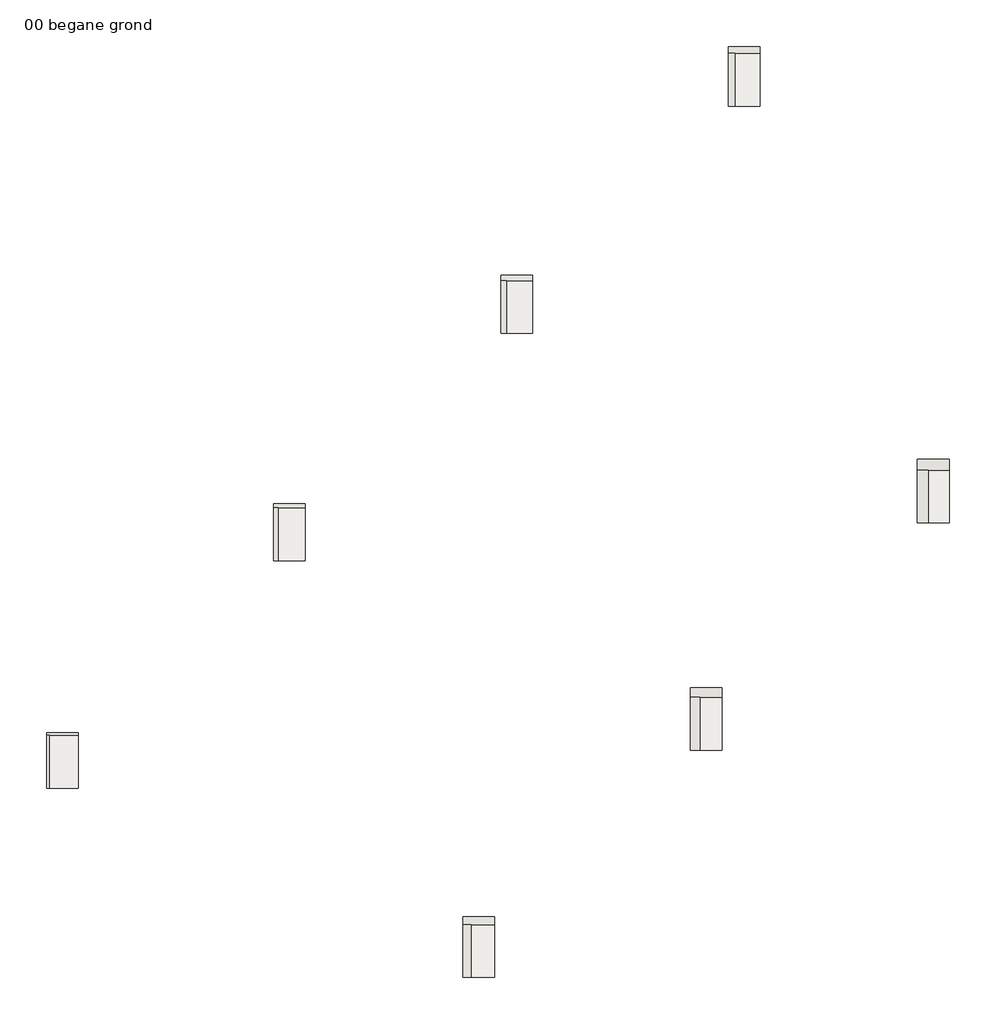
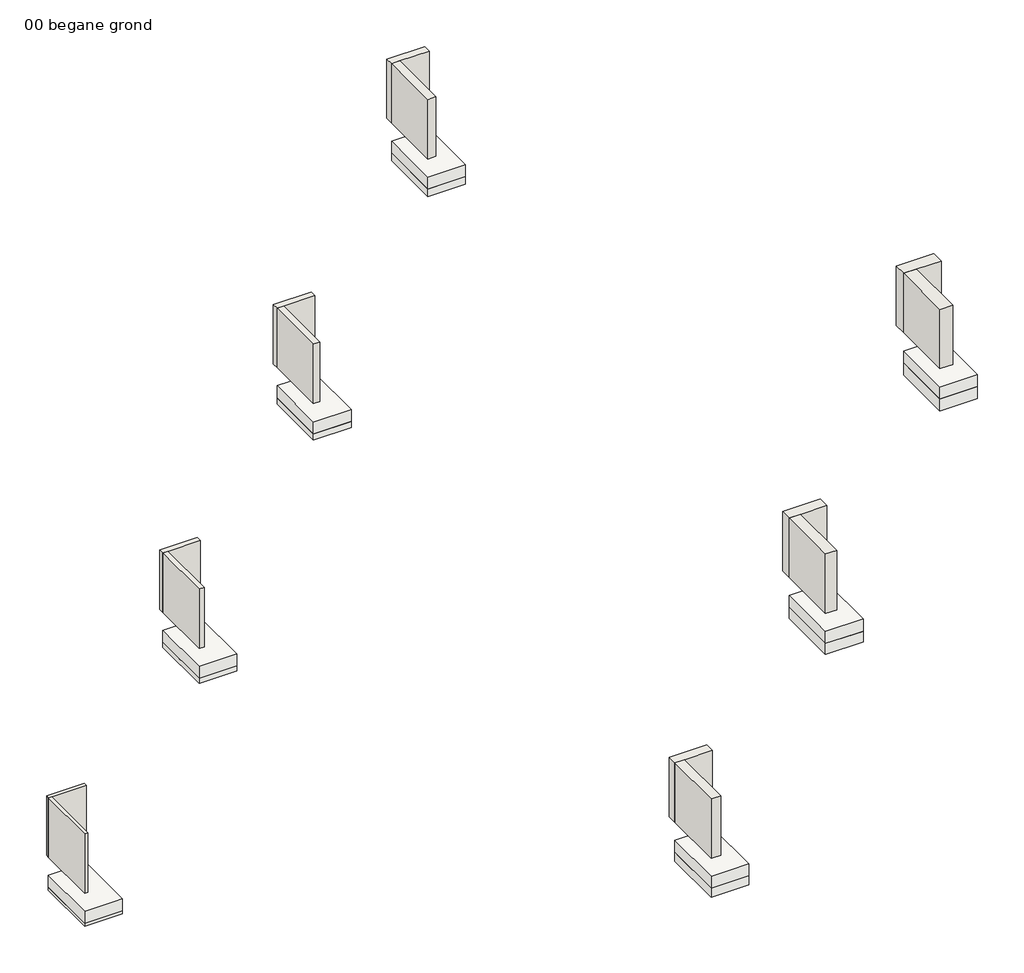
# One storey: 14 slabs, 14 walls.
"""IFC4 building model written with IfcOpenShell, lengths in millimetres."""

import ifcopenshell
import ifcopenshell.guid

model = None  # the IFC model being written
_history = None  # IfcOwnerHistory: only IFC2X3 demands one
_inside = {}  # id of a spatial element -> (the spatial element, [elements in it])
_under = {}  # id of a project, library or spatial element -> (it, [spatial elements below it])
_declared = {}  # id of a project -> (the project, [libraries it declares])
_typed = {}  # id of a type object -> (the type object, [elements of that type])
_made_of = {}  # id of a material, layer set ... -> (it, [elements and type objects made of it])


def new_model(schema):
    """Start an empty IFC model of exactly this schema.

    Asked for "IFC4X3", IfcOpenShell would pick the latest addendum, in which some entities
    have other attributes; the version numbers below select the first issue.
    IFC2X3 requires an IfcOwnerHistory on every rooted entity: one is made here for all.
    """
    global model, _history
    if schema == "IFC4X3":
        model = ifcopenshell.file(schema_version=(4, 3, 0, 0))
    else:
        model = ifcopenshell.file(schema=schema)
    _inside.clear()
    _under.clear()
    _declared.clear()
    _typed.clear()
    _made_of.clear()
    _history = None
    if model.schema == "IFC2X3":
        org = make("IfcOrganization", Name="unknown")
        user = make(
            "IfcPersonAndOrganization",
            ThePerson=make("IfcPerson", FamilyName="unknown"),
            TheOrganization=org,
        )
        app = make(
            "IfcApplication",
            ApplicationDeveloper=org,
            Version="unknown",
            ApplicationFullName="unknown",
            ApplicationIdentifier="unknown",
        )
        _history = make(
            "IfcOwnerHistory",
            OwningUser=user,
            OwningApplication=app,
            ChangeAction="ADDED",
            CreationDate=0,
        )
    return model


def make(cls, **values):
    """One entity of the class cls with the attributes given. An attribute that is None is left unset."""
    return model.create_entity(
        cls, **{name: value for name, value in values.items() if value is not None}
    )


def rooted(cls, **values):
    """An entity with a GlobalId (a new one), such as an element, a storey or a relation."""
    return make(cls, GlobalId=ifcopenshell.guid.new(), OwnerHistory=_history, **values)


def si_unit(unit_type, name, prefix=None):
    """IfcSIUnit, for example si_unit("LENGTHUNIT", "METRE", prefix="MILLI")."""
    return make("IfcSIUnit", UnitType=unit_type, Prefix=prefix, Name=name)


def assignment(units):
    """IfcUnitAssignment: the units of a project."""
    return None if units is None else make("IfcUnitAssignment", Units=units)


def point(xyz):
    """IfcCartesianPoint."""
    return None if xyz is None else make("IfcCartesianPoint", Coordinates=xyz)


def direction(xyz):
    """IfcDirection."""
    return None if xyz is None else make("IfcDirection", DirectionRatios=xyz)


def frame(location, z_axis=None, x_axis=None):
    """IfcAxis2Placement3D, a coordinate frame: its origin and axes. An axis left out is left unset."""
    return make(
        "IfcAxis2Placement3D",
        Location=point(location),
        Axis=direction(z_axis),
        RefDirection=direction(x_axis),
    )


def origin():
    """The frame at (0, 0, 0) with its axes left unset."""
    return frame((0.0, 0.0, 0.0))


def origin_with_axes():
    """The frame at (0, 0, 0) with the z axis (0, 0, 1) and the x axis (1, 0, 0) written out."""
    return frame((0.0, 0.0, 0.0), z_axis=(0.0, 0.0, 1.0), x_axis=(1.0, 0.0, 0.0))


def place(relative_to, where):
    """IfcLocalPlacement: puts the frame where relative to a parent placement (None: the world)."""
    return make(
        "IfcLocalPlacement", PlacementRelTo=relative_to, RelativePlacement=where
    )


def context(
    kind, dimensions, precision=None, world=None, true_north=None, identifier=None
):
    """IfcGeometricRepresentationContext, for example the 3D "Model" context."""
    return make(
        "IfcGeometricRepresentationContext",
        ContextIdentifier=identifier,
        ContextType=kind,
        CoordinateSpaceDimension=dimensions,
        Precision=precision,
        WorldCoordinateSystem=world,
        TrueNorth=true_north,
    )


def project(units=None, contexts=None):
    """IfcProject with its units and contexts."""
    return rooted(
        "IfcProject",
        Name="project",
        RepresentationContexts=contexts,
        UnitsInContext=assignment(units),
    )


def spatial(cls, under=None, at=None, **own):
    """A site, building, storey or space (cls), placed at a placement, below another one or the project."""
    s = rooted(cls, ObjectPlacement=at, **own)
    if under is not None:
        _under.setdefault(under.id(), (under, []))[1].append(s)
    return s


def polyline(points):
    """IfcPolyline through the points."""
    return make("IfcPolyline", Points=[point(p) for p in points])


def outline(outer, holes=None, kind="AREA"):
    """IfcArbitraryClosedProfileDef: a profile drawn as a closed curve; with holes, ...WithVoids."""
    if holes is None:
        return make("IfcArbitraryClosedProfileDef", ProfileType=kind, OuterCurve=outer)
    return make(
        "IfcArbitraryProfileDefWithVoids",
        ProfileType=kind,
        OuterCurve=outer,
        InnerCurves=holes,
    )


def extrude(swept, where, along, depth):
    """IfcExtrudedAreaSolid: the profile swept, set in the frame where, extruded along a direction by depth."""
    return make(
        "IfcExtrudedAreaSolid",
        SweptArea=swept,
        Position=where,
        ExtrudedDirection=direction(along),
        Depth=depth,
    )


def faces_of(points, faces, orient=None, outer=None):
    """IfcFace entities. A face is a list of loops; a loop is a list of indices into points, from 0.

    orient and outer hold one flag for each loop. By default every Orientation is true, the
    first loop of a face is its IfcFaceOuterBound and the others are IfcFaceBound.
    """
    made = []
    for i, loops in enumerate(faces):
        bounds = []
        for j, loop in enumerate(loops):
            is_outer = j == 0 if outer is None else outer[i][j]
            bounds.append(
                make(
                    "IfcFaceOuterBound" if is_outer else "IfcFaceBound",
                    Bound=make("IfcPolyLoop", Polygon=[points[k] for k in loop]),
                    Orientation=True if orient is None else orient[i][j],
                )
            )
        made.append(make("IfcFace", Bounds=bounds))
    return made


def faceted_brep(points, faces, orient=None, outer=None, voids=None):
    """IfcFacetedBrep: a solid bounded by flat faces; with voids (closed shells), ...WithVoids."""
    shared = [point(p) for p in points]
    hull = make("IfcClosedShell", CfsFaces=faces_of(shared, faces, orient, outer))
    if voids is None:
        return make("IfcFacetedBrep", Outer=hull)
    return make(
        "IfcFacetedBrepWithVoids",
        Outer=hull,
        Voids=[
            make(cls, CfsFaces=faces_of(shared, fs, o, b)) for cls, fs, o, b in voids
        ],
    )


def shape(context_of_items, identifier, shape_type, items):
    """IfcShapeRepresentation: the items that make up one representation, for example the "Body"."""
    return make(
        "IfcShapeRepresentation",
        ContextOfItems=context_of_items,
        RepresentationIdentifier=identifier,
        RepresentationType=shape_type,
        Items=items,
    )


def made_of(thing, what):
    """Note that an element or type object is made of a material, layer set ...; save() writes the relation."""
    if what is not None:
        _made_of.setdefault(what.id(), (what, []))[1].append(thing)
    return thing


def element(
    cls,
    number,
    at=None,
    inside=None,
    cuts=None,
    type_object=None,
    material=None,
    context=None,
    identifier="Body",
    shape_type=None,
    held_by="IfcProductDefinitionShape",
    body=None,
    shapes=None,
    **own,
):
    """One element of the class cls, such as IfcWall. Its Tag is "e" and its number.

    at: its placement. inside: the storey or other place that contains it. cuts: it is an
    opening in that element (IfcRelVoidsElement). A single representation is given by context,
    identifier, shape_type and body (its items); several are given by shapes. held_by: the class
    of the entity that holds the representations. save() writes the other relations.
    """
    e = rooted(cls, Tag="e%d" % number, ObjectPlacement=at, **own)
    if body is not None:
        shapes = [shape(context, identifier, shape_type, body)]
    if shapes is not None:
        e.Representation = make(held_by, Representations=shapes)
    if inside is not None:
        _inside.setdefault(inside.id(), (inside, []))[1].append(e)
    if cuts is not None:
        rooted(
            "IfcRelVoidsElement", RelatingBuildingElement=cuts, RelatedOpeningElement=e
        )
    if type_object is not None:
        _typed.setdefault(type_object.id(), (type_object, []))[1].append(e)
    return made_of(e, material)


def aggregate(whole, parts):
    """IfcRelAggregates: a whole, such as a stair, and the parts it consists of."""
    return rooted("IfcRelAggregates", RelatingObject=whole, RelatedObjects=parts)


def save(model, path):
    """Write the relations noted so far, then the file.

    IfcRelAggregates (storeys below a building ...), IfcRelContainedInSpatialStructure (elements
    in a storey), IfcRelDefinesByType, IfcRelAssociatesMaterial and IfcRelDeclares: one each for
    every whole, place, type object, material and project.
    """
    for whole, parts in _under.values():
        aggregate(whole, parts)
    for where, things in _inside.values():
        rooted(
            "IfcRelContainedInSpatialStructure",
            RelatedElements=things,
            RelatingStructure=where,
        )
    for kind, things in _typed.values():
        rooted("IfcRelDefinesByType", RelatedObjects=things, RelatingType=kind)
    for what, things in _made_of.values():
        rooted("IfcRelAssociatesMaterial", RelatedObjects=things, RelatingMaterial=what)
    for by, libraries in _declared.values():
        rooted("IfcRelDeclares", RelatingContext=by, RelatedDefinitions=libraries)
    model.write(path)


model = new_model("IFC4")

# Units and contexts
model_context = context("Model", 3, world=origin())
ifc_project = project(units=[si_unit("LENGTHUNIT", "METRE", prefix="MILLI")], contexts=[model_context])

# Site, building, storey
site = spatial("IfcSite", under=ifc_project)
building = spatial("IfcBuilding", under=site)
storey = spatial("IfcBuildingStorey", under=building, Name="00 begane grond", Elevation=0.0)

# Slabs
placement = place(None, origin())
element("IfcSlab", 1, ObjectType="NLRS_23_FL_Heraklith Heratekta+ 80x985x590mm", at=placement, inside=storey, context=model_context, shape_type="SweptSolid", body=[
    extrude(outline(polyline([(4832.6406871, 4242.6406871), (4242.6406871, 4242.6406871), (4242.6406871, 5227.6406871), (4832.6406871, 5227.6406871), (4832.6406871, 4242.6406871)])), frame((0.0, 0.0, -580.0), z_axis=(0.0, 0.0, 1.0), x_axis=(1.0, 0.0, 0.0)), (0.0, 0.0, 1.0), 80.0),
])
element("IfcSlab", 2, ObjectType="NLRS_23_FL_Heraklith Heratekta+ 100x985x590mm", at=placement, inside=storey, context=model_context, shape_type="SweptSolid", body=[
    extrude(outline(polyline([(9075.2813742, 8485.2813742), (8485.2813742, 8485.2813742), (8485.2813742, 9470.2813742), (9075.2813742, 9470.2813742), (9075.2813742, 8485.2813742)])), frame((0.0, 0.0, -600.0), z_axis=(0.0, 0.0, 1.0), x_axis=(1.0, 0.0, 0.0)), (0.0, 0.0, 1.0), 100.0),
])
element("IfcSlab", 3, ObjectType="NLRS_23_FL_Heraklith Heratekta+ 125x985x590mm", at=placement, inside=storey, context=model_context, shape_type="SweptSolid", body=[
    extrude(outline(polyline([(13317.9220614, 12727.9220614), (12727.9220614, 12727.9220614), (12727.9220614, 13712.9220614), (13317.9220614, 13712.9220614), (13317.9220614, 12727.9220614)])), frame((0.0, 0.0, -625.0), z_axis=(0.0, 0.0, 1.0), x_axis=(1.0, 0.0, 0.0)), (0.0, 0.0, 1.0), 125.0),
])
element("IfcSlab", 4, ObjectType="NLRS_23_FL_Heraklith Heratekta+ 150x985x590mm", at=placement, inside=storey, context=model_context, shape_type="SweptSolid", body=[
    extrude(outline(polyline([(8368.1745931, -3535.5339059), (7778.1745931, -3535.5339059), (7778.1745931, -2550.5339059), (8368.1745931, -2550.5339059), (8368.1745931, -3535.5339059)])), frame((0.0, 0.0, -650.0), z_axis=(0.0, 0.0, 1.0), x_axis=(1.0, 0.0, 0.0)), (0.0, 0.0, 1.0), 150.0),
])
element("IfcSlab", 5, ObjectType="NLRS_23_FL_Heraklith Heratekta+ 175x985x590mm", at=placement, inside=storey, context=model_context, shape_type="SweptSolid", body=[
    extrude(outline(polyline([(12610.8152802, 707.1067812), (12020.8152802, 707.1067812), (12020.8152802, 1692.1067812), (12610.8152802, 1692.1067812), (12610.8152802, 707.1067812)])), frame((0.0, 0.0, -675.0), z_axis=(0.0, 0.0, 1.0), x_axis=(1.0, 0.0, 0.0)), (0.0, 0.0, 1.0), 175.0),
])
element("IfcSlab", 6, ObjectType="NLRS_23_FL_Heraklith Heratekta+ 200x985x590mm", at=placement, inside=storey, context=model_context, shape_type="SweptSolid", body=[
    extrude(outline(polyline([(16853.4559673, 4949.7474683), (16263.4559673, 4949.7474683), (16263.4559673, 5934.7474683), (16853.4559673, 5934.7474683), (16853.4559673, 4949.7474683)])), frame((0.0, 0.0, -700.0), z_axis=(0.0, 0.0, 1.0), x_axis=(1.0, 0.0, 0.0)), (0.0, 0.0, 1.0), 200.0),
])
element("IfcSlab", 7, ObjectType="NLRS_23_FL_Heraklith Heratekta+ 50x985x590mm", at=placement, inside=storey, context=model_context, shape_type="SweptSolid", body=[
    extrude(outline(polyline([(590.0, 0.0195534), (0.0, 0.0195534), (0.0, 985.0195534), (590.0, 985.0195534), (590.0, 0.0195534)])), frame((0.0, 0.0, -550.0), z_axis=(0.0, 0.0, 1.0), x_axis=(1.0, 0.0, 0.0)), (0.0, 0.0, 1.0), 50.0),
])
element("IfcSlab", 8, ObjectType="Generic 200mm", at=placement, inside=storey, context=model_context, shape_type="SweptSolid", body=[
    extrude(outline(polyline([(590.0, 985.0), (590.0, 0.0), (0.0, 0.0), (0.0, 985.0), (590.0, 985.0)])), frame((0.0, 0.0, -500.0), z_axis=(0.0, 0.0, 1.0), x_axis=(1.0, 0.0, 0.0)), (0.0, 0.0, 1.0), 200.0),
])
element("IfcSlab", 9, ObjectType="Generic 200mm", at=placement, inside=storey, context=model_context, shape_type="SweptSolid", body=[
    extrude(outline(polyline([(4832.6406871, 5227.6406871), (4832.6406871, 4242.6406871), (4242.6406871, 4242.6406871), (4242.6406871, 5227.6406871), (4832.6406871, 5227.6406871)])), frame((0.0, 0.0, -500.0), z_axis=(0.0, 0.0, 1.0), x_axis=(1.0, 0.0, 0.0)), (0.0, 0.0, 1.0), 200.0),
])
element("IfcSlab", 10, ObjectType="Generic 200mm", at=placement, inside=storey, context=model_context, shape_type="SweptSolid", body=[
    extrude(outline(polyline([(9075.2813742, 9470.2813742), (9075.2813742, 8485.2813742), (8485.2813742, 8485.2813742), (8485.2813742, 9470.2813742), (9075.2813742, 9470.2813742)])), frame((0.0, 0.0, -500.0), z_axis=(0.0, 0.0, 1.0), x_axis=(1.0, 0.0, 0.0)), (0.0, 0.0, 1.0), 200.0),
])
element("IfcSlab", 11, ObjectType="Generic 200mm", at=placement, inside=storey, context=model_context, shape_type="SweptSolid", body=[
    extrude(outline(polyline([(13317.9220614, 13712.9220614), (13317.9220614, 12727.9220614), (12727.9220614, 12727.9220614), (12727.9220614, 13712.9220614), (13317.9220614, 13712.9220614)])), frame((0.0, 0.0, -500.0), z_axis=(0.0, 0.0, 1.0), x_axis=(1.0, 0.0, 0.0)), (0.0, 0.0, 1.0), 200.0),
])
element("IfcSlab", 12, ObjectType="Generic 200mm", at=placement, inside=storey, context=model_context, shape_type="SweptSolid", body=[
    extrude(outline(polyline([(16853.4559673, 5934.7474683), (16853.4559673, 4949.7474683), (16263.4559673, 4949.7474683), (16263.4559673, 5934.7474683), (16853.4559673, 5934.7474683)])), frame((0.0, 0.0, -500.0), z_axis=(0.0, 0.0, 1.0), x_axis=(1.0, 0.0, 0.0)), (0.0, 0.0, 1.0), 200.0),
])
element("IfcSlab", 13, ObjectType="Generic 200mm", at=placement, inside=storey, context=model_context, shape_type="SweptSolid", body=[
    extrude(outline(polyline([(12610.8152802, 1692.1067812), (12610.8152802, 707.1067812), (12020.8152802, 707.1067812), (12020.8152802, 1692.1067812), (12610.8152802, 1692.1067812)])), frame((0.0, 0.0, -500.0), z_axis=(0.0, 0.0, 1.0), x_axis=(1.0, 0.0, 0.0)), (0.0, 0.0, 1.0), 200.0),
])
element("IfcSlab", 14, ObjectType="Generic 200mm", at=placement, inside=storey, context=model_context, shape_type="SweptSolid", body=[
    extrude(outline(polyline([(8368.1745931, -2550.5339059), (8368.1745931, -3535.5339059), (7778.1745931, -3535.5339059), (7778.1745931, -2550.5339059), (8368.1745931, -2550.5339059)])), frame((0.0, 0.0, -500.0), z_axis=(0.0, 0.0, 1.0), x_axis=(1.0, 0.0, 0.0)), (0.0, 0.0, 1.0), 200.0),
])

# Walls
element("IfcWall", 15, ObjectType="NLRS_42_WA_Heraklith Heratekta+ 50x985x590mm", at=placement, inside=storey, context=model_context, shape_type="SweptSolid", body=[
    extrude(outline(polyline([(50.0, 985.0), (50.0, 0.0), (0.0, 0.0), (0.0, 985.0), (50.0, 985.0)])), origin_with_axes(), (0.0, 0.0, 1.0), 985.0),
])
element("IfcWall", 16, ObjectType="NLRS_41_WA_Heraklith Heratekta+ 50x985x590mm", at=placement, inside=storey, context=model_context, shape_type="Brep", body=[
    faceted_brep([(590.0, 1035.0, 0.0), (0.0, 1035.0, 0.0), (0.0, 1035.0, 985.0), (590.0, 1035.0, 985.0), (590.0, 985.0, 0.0), (590.0, 985.0, 985.0), (50.0, 985.0, 985.0), (0.0, 985.0, 985.0), (0.0, 985.0, 0.0), (50.0, 985.0, 0.0)], [[[0, 1, 2, 3]], [[4, 5, 6, 7, 8, 9]], [[1, 0, 4, 9, 8]], [[3, 2, 7, 6, 5]], [[0, 3, 5, 4]], [[2, 1, 8, 7]]]),
])
element("IfcWall", 17, ObjectType="NLRS_42_WA_Heraklith Heratekta+ 80x985x590mm", at=placement, inside=storey, context=model_context, shape_type="SweptSolid", body=[
    extrude(outline(polyline([(4322.6406871, 5227.6406871), (4322.6406871, 4242.6406871), (4242.6406871, 4242.6406871), (4242.6406871, 5227.6406871), (4322.6406871, 5227.6406871)])), origin_with_axes(), (0.0, 0.0, 1.0), 985.0),
])
element("IfcWall", 18, ObjectType="NLRS_41_WA_Heraklith Heratekta+ 80x985x590mm", at=placement, inside=storey, context=model_context, shape_type="Brep", body=[
    faceted_brep([(4832.6406871, 5307.6406871, 0.0), (4242.6406871, 5307.6406871, 0.0), (4242.6406871, 5307.6406871, 985.0), (4832.6406871, 5307.6406871, 985.0), (4832.6406871, 5227.6406871, 0.0), (4832.6406871, 5227.6406871, 985.0), (4322.6406871, 5227.6406871, 985.0), (4242.6406871, 5227.6406871, 985.0), (4242.6406871, 5227.6406871, 0.0), (4322.6406871, 5227.6406871, 0.0)], [[[0, 1, 2, 3]], [[4, 5, 6, 7, 8, 9]], [[1, 0, 4, 9, 8]], [[3, 2, 7, 6, 5]], [[0, 3, 5, 4]], [[2, 1, 8, 7]]]),
])
element("IfcWall", 19, ObjectType="NLRS_42_WA_Heraklith Heratekta+ 100x985x590mm", at=placement, inside=storey, context=model_context, shape_type="SweptSolid", body=[
    extrude(outline(polyline([(8585.2813742, 9470.2813742), (8585.2813742, 8485.2813742), (8485.2813742, 8485.2813742), (8485.2813742, 9470.2813742), (8585.2813742, 9470.2813742)])), origin_with_axes(), (0.0, 0.0, 1.0), 985.0),
])
element("IfcWall", 20, ObjectType="NLRS_41_WA_Heraklith Heratekta+ 100x985x590mm", at=placement, inside=storey, context=model_context, shape_type="Brep", body=[
    faceted_brep([(9075.2813742, 9570.2813742, 0.0), (8485.2813742, 9570.2813742, 0.0), (8485.2813742, 9570.2813742, 985.0), (9075.2813742, 9570.2813742, 985.0), (9075.2813742, 9470.2813742, 0.0), (9075.2813742, 9470.2813742, 985.0), (8585.2813742, 9470.2813742, 985.0), (8485.2813742, 9470.2813742, 985.0), (8485.2813742, 9470.2813742, 0.0), (8585.2813742, 9470.2813742, 0.0)], [[[0, 1, 2, 3]], [[4, 5, 6, 7, 8, 9]], [[1, 0, 4, 9, 8]], [[3, 2, 7, 6, 5]], [[0, 3, 5, 4]], [[2, 1, 8, 7]]]),
])
element("IfcWall", 21, ObjectType="NLRS_42_WA_Heraklith Heratekta+ 125x985x590mm", at=placement, inside=storey, context=model_context, shape_type="SweptSolid", body=[
    extrude(outline(polyline([(12852.9220614, 13712.9220614), (12852.9220614, 12727.9220614), (12727.9220614, 12727.9220614), (12727.9220614, 13712.9220614), (12852.9220614, 13712.9220614)])), origin_with_axes(), (0.0, 0.0, 1.0), 985.0),
])
element("IfcWall", 22, ObjectType="NLRS_41_WA_Heraklith Heratekta+ 125x985x590mm", at=placement, inside=storey, context=model_context, shape_type="Brep", body=[
    faceted_brep([(13317.9220614, 13837.9220614, 0.0), (12727.9220614, 13837.9220614, 0.0), (12727.9220614, 13837.9220614, 985.0), (13317.9220614, 13837.9220614, 985.0), (13317.9220614, 13712.9220614, 0.0), (13317.9220614, 13712.9220614, 985.0), (12852.9220614, 13712.9220614, 985.0), (12727.9220614, 13712.9220614, 985.0), (12727.9220614, 13712.9220614, 0.0), (12852.9220614, 13712.9220614, 0.0)], [[[0, 1, 2, 3]], [[4, 5, 6, 7, 8, 9]], [[1, 0, 4, 9, 8]], [[3, 2, 7, 6, 5]], [[0, 3, 5, 4]], [[2, 1, 8, 7]]]),
])
element("IfcWall", 23, ObjectType="NLRS_42_WA_Heraklith Heratekta+ 150x985x590mm", at=placement, inside=storey, context=model_context, shape_type="SweptSolid", body=[
    extrude(outline(polyline([(7928.1745931, -2550.5339059), (7928.1745931, -3535.5339059), (7778.1745931, -3535.5339059), (7778.1745931, -2550.5339059), (7928.1745931, -2550.5339059)])), origin_with_axes(), (0.0, 0.0, 1.0), 985.0),
])
element("IfcWall", 24, ObjectType="NLRS_41_WA_Heraklith Heratekta+ 150x985x590mm", at=placement, inside=storey, context=model_context, shape_type="Brep", body=[
    faceted_brep([(8368.1745931, -2400.5339059, 0.0), (7778.1745931, -2400.5339059, 0.0), (7778.1745931, -2400.5339059, 985.0), (8368.1745931, -2400.5339059, 985.0), (8368.1745931, -2550.5339059, 0.0), (8368.1745931, -2550.5339059, 985.0), (7928.1745931, -2550.5339059, 985.0), (7778.1745931, -2550.5339059, 985.0), (7778.1745931, -2550.5339059, 0.0), (7928.1745931, -2550.5339059, 0.0)], [[[0, 1, 2, 3]], [[4, 5, 6, 7, 8, 9]], [[1, 0, 4, 9, 8]], [[3, 2, 7, 6, 5]], [[0, 3, 5, 4]], [[2, 1, 8, 7]]]),
])
element("IfcWall", 25, ObjectType="NLRS_42_WA_Heraklith Heratekta+ 175x985x590mm", at=placement, inside=storey, context=model_context, shape_type="SweptSolid", body=[
    extrude(outline(polyline([(12195.8152802, 1692.1067812), (12195.8152802, 707.1067812), (12020.8152802, 707.1067812), (12020.8152802, 1692.1067812), (12195.8152802, 1692.1067812)])), origin_with_axes(), (0.0, 0.0, 1.0), 985.0),
])
element("IfcWall", 26, ObjectType="NLRS_41_WA_Heraklith Heratekta+ 175x985x590mm", at=placement, inside=storey, context=model_context, shape_type="Brep", body=[
    faceted_brep([(12610.8152802, 1867.1067812, 0.0), (12020.8152802, 1867.1067812, 0.0), (12020.8152802, 1867.1067812, 985.0), (12610.8152802, 1867.1067812, 985.0), (12610.8152802, 1692.1067812, 0.0), (12610.8152802, 1692.1067812, 985.0), (12195.8152802, 1692.1067812, 985.0), (12020.8152802, 1692.1067812, 985.0), (12020.8152802, 1692.1067812, 0.0), (12195.8152802, 1692.1067812, 0.0)], [[[0, 1, 2, 3]], [[4, 5, 6, 7, 8, 9]], [[1, 0, 4, 9, 8]], [[3, 2, 7, 6, 5]], [[0, 3, 5, 4]], [[2, 1, 8, 7]]]),
])
element("IfcWall", 27, ObjectType="NLRS_42_WA_Heraklith Heratekta+ 200x985x590mm", at=placement, inside=storey, context=model_context, shape_type="SweptSolid", body=[
    extrude(outline(polyline([(16463.4559673, 5934.7474683), (16463.4559673, 4949.7474683), (16263.4559673, 4949.7474683), (16263.4559673, 5934.7474683), (16463.4559673, 5934.7474683)])), origin_with_axes(), (0.0, 0.0, 1.0), 985.0),
])
element("IfcWall", 28, ObjectType="NLRS_41_WA_Heraklith Heratekta+ 200x985x590mm", at=placement, inside=storey, context=model_context, shape_type="Brep", body=[
    faceted_brep([(16853.4559673, 6134.7474683, 0.0), (16263.4559673, 6134.7474683, 0.0), (16263.4559673, 6134.7474683, 985.0), (16853.4559673, 6134.7474683, 985.0), (16853.4559673, 5934.7474683, 0.0), (16853.4559673, 5934.7474683, 985.0), (16463.4559673, 5934.7474683, 985.0), (16263.4559673, 5934.7474683, 985.0), (16263.4559673, 5934.7474683, 0.0), (16463.4559673, 5934.7474683, 0.0)], [[[0, 1, 2, 3]], [[4, 5, 6, 7, 8, 9]], [[1, 0, 4, 9, 8]], [[3, 2, 7, 6, 5]], [[0, 3, 5, 4]], [[2, 1, 8, 7]]]),
])

save(model, "model.ifc")
